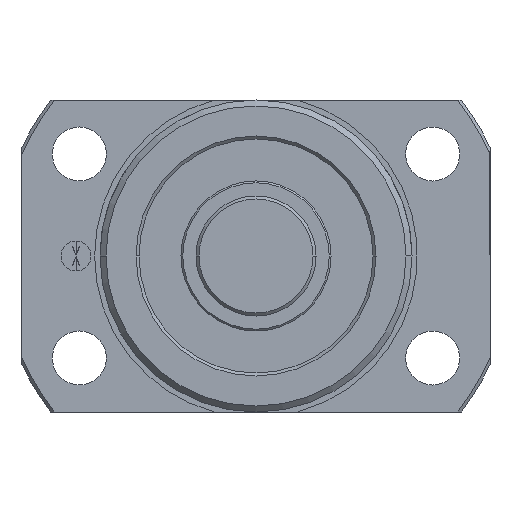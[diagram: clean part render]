
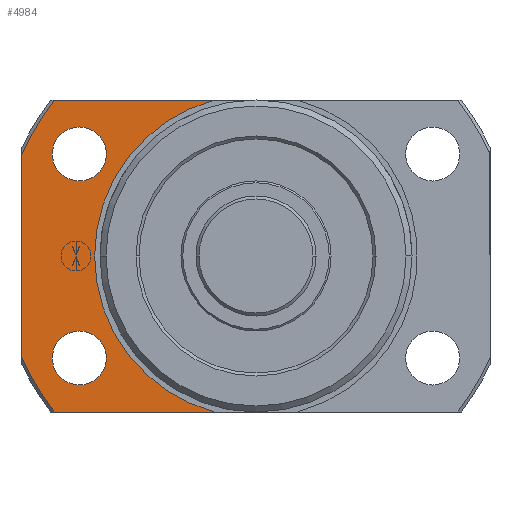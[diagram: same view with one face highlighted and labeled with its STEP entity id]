
A CAD part, left-side view. The second image highlights one B-rep face of the part: STEP entity #4984.
In plain terms, the highlighted planar face has unit normal (-1, 0, 0).
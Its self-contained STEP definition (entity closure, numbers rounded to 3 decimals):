
#4 = ORIENTED_EDGE ( 'NONE', *, *, #1739, .F. ) ;
#5 = ORIENTED_EDGE ( 'NONE', *, *, #5090, .F. ) ;
#6 = ORIENTED_EDGE ( 'NONE', *, *, #1738, .F. ) ;
#7 = ORIENTED_EDGE ( 'NONE', *, *, #5082, .F. ) ;
#8 = ORIENTED_EDGE ( 'NONE', *, *, #5110, .T. ) ;
#9 = ORIENTED_EDGE ( 'NONE', *, *, #1728, .T. ) ;
#10 = ORIENTED_EDGE ( 'NONE', *, *, #1737, .T. ) ;
#11 = ORIENTED_EDGE ( 'NONE', *, *, #1736, .F. ) ;
#12 = ORIENTED_EDGE ( 'NONE', *, *, #1735, .T. ) ;
#13 = ORIENTED_EDGE ( 'NONE', *, *, #1734, .F. ) ;
#14 = ORIENTED_EDGE ( 'NONE', *, *, #1733, .T. ) ;
#718 = VERTEX_POINT ( 'NONE', #2357 ) ;
#719 = VERTEX_POINT ( 'NONE', #2372 ) ;
#726 = VERTEX_POINT ( 'NONE', #2330 ) ;
#727 = VERTEX_POINT ( 'NONE', #2327 ) ;
#1571 = CARTESIAN_POINT ( 'NONE',  ( -15., 33.619, 26. ) ) ;
#1574 = CARTESIAN_POINT ( 'NONE',  ( -15., 6.9, 26. ) ) ;
#1577 = CARTESIAN_POINT ( 'NONE',  ( -15., 26.9, 0. ) ) ;
#1587 = CARTESIAN_POINT ( 'NONE',  ( -15., 33.619, -26. ) ) ;
#1632 = CARTESIAN_POINT ( 'NONE',  ( -15., 39., -16.889 ) ) ;
#1645 = CARTESIAN_POINT ( 'NONE',  ( -15., 6.9, -26. ) ) ;
#1728 = EDGE_CURVE ( 'NONE', #4488, #4642, #4563, .T. ) ;
#1733 = EDGE_CURVE ( 'NONE', #4645, #4491, #4571, .T. ) ;
#1734 = EDGE_CURVE ( 'NONE', #4473, #4491, #4573, .T. ) ;
#1735 = EDGE_CURVE ( 'NONE', #4473, #4503, #4570, .T. ) ;
#1736 = EDGE_CURVE ( 'NONE', #4487, #4503, #4576, .T. ) ;
#1737 = EDGE_CURVE ( 'NONE', #4487, #4488, #4575, .T. ) ;
#1738 = EDGE_CURVE ( 'NONE', #719, #718, #4579, .T. ) ;
#1739 = EDGE_CURVE ( 'NONE', #727, #726, #4578, .T. ) ;
#1988 = CARTESIAN_POINT ( 'NONE',  ( -15., 29.445, 17. ) ) ;
#1989 = DIRECTION ( 'NONE',  ( -1., 0., 0. ) ) ;
#1990 = DIRECTION ( 'NONE',  ( 0., -1., 0. ) ) ;
#2008 = CARTESIAN_POINT ( 'NONE',  ( -15., 29.445, -17. ) ) ;
#2009 = DIRECTION ( 'NONE',  ( -1., 0., 0. ) ) ;
#2010 = DIRECTION ( 'NONE',  ( 0., -1., 0. ) ) ;
#2057 = CARTESIAN_POINT ( 'NONE',  ( -15., 0., 0. ) ) ;
#2058 = DIRECTION ( 'NONE',  ( 1., 0., 0. ) ) ;
#2059 = DIRECTION ( 'NONE',  ( 0., 1., 0. ) ) ;
#2127 = AXIS2_PLACEMENT_3D ( 'NONE', #1988, #1989, #1990 ) ;
#2131 = AXIS2_PLACEMENT_3D ( 'NONE', #2008, #2009, #2010 ) ;
#2141 = AXIS2_PLACEMENT_3D ( 'NONE', #2057, #2058, #2059 ) ;
#2327 = CARTESIAN_POINT ( 'NONE',  ( -15., 29.445, -12.5 ) ) ;
#2330 = CARTESIAN_POINT ( 'NONE',  ( -15., 29.445, -21.5 ) ) ;
#2357 = CARTESIAN_POINT ( 'NONE',  ( -15., 29.445, 12.5 ) ) ;
#2372 = CARTESIAN_POINT ( 'NONE',  ( -15., 29.445, 21.5 ) ) ;
#2877 = DIRECTION ( 'NONE',  ( -1., 0., 0. ) ) ;
#2879 = CARTESIAN_POINT ( 'NONE',  ( -15., 26.9, 0. ) ) ;
#2881 = PLANE ( 'NONE',  #4282 ) ;
#2882 = DIRECTION ( 'NONE',  ( 0., -1., 0. ) ) ;
#3057 = DIRECTION ( 'NONE',  ( 0., 1., 0. ) ) ;
#3058 = DIRECTION ( 'NONE',  ( 1., 0., 0. ) ) ;
#3059 = CARTESIAN_POINT ( 'NONE',  ( -15., 0., 0. ) ) ;
#3102 = DIRECTION ( 'NONE',  ( 0., 1., 0. ) ) ;
#3107 = CARTESIAN_POINT ( 'NONE',  ( -15., 26.9, 26. ) ) ;
#3121 = DIRECTION ( 'NONE',  ( 0., -1., 0. ) ) ;
#3122 = DIRECTION ( 'NONE',  ( -1., 0., 0. ) ) ;
#3123 = CARTESIAN_POINT ( 'NONE',  ( -15., 29.445, -17. ) ) ;
#3125 = DIRECTION ( 'NONE',  ( 0., -1., 0. ) ) ;
#3126 = DIRECTION ( 'NONE',  ( -1., 0., 0. ) ) ;
#3127 = CARTESIAN_POINT ( 'NONE',  ( -15., 29.445, 17. ) ) ;
#3129 = DIRECTION ( 'NONE',  ( 0., 1., 0. ) ) ;
#3130 = DIRECTION ( 'NONE',  ( 1., 0., 0. ) ) ;
#3131 = CARTESIAN_POINT ( 'NONE',  ( -15., 0., 0. ) ) ;
#3132 = CARTESIAN_POINT ( 'NONE',  ( -15., 26.9, -26. ) ) ;
#3134 = DIRECTION ( 'NONE',  ( 0., 0., -1. ) ) ;
#3135 = DIRECTION ( 'NONE',  ( 0., 1., 0. ) ) ;
#3137 = CARTESIAN_POINT ( 'NONE',  ( -15., 39., 0. ) ) ;
#3138 = DIRECTION ( 'NONE',  ( 0., -1., 0. ) ) ;
#3139 = DIRECTION ( 'NONE',  ( 1., 0., 0. ) ) ;
#3140 = CARTESIAN_POINT ( 'NONE',  ( -15., 0., 0. ) ) ;
#3411 = CIRCLE ( 'NONE', #2127, 4.5 ) ;
#3423 = CIRCLE ( 'NONE', #2131, 4.5 ) ;
#3449 = CIRCLE ( 'NONE', #2141, 26.9 ) ;
#4062 = FACE_OUTER_BOUND ( 'NONE', #5575, .T. ) ;
#4063 = FACE_BOUND ( 'NONE', #5584, .T. ) ;
#4068 = FACE_BOUND ( 'NONE', #5573, .T. ) ;
#4123 = AXIS2_PLACEMENT_3D ( 'NONE', #3059, #3058, #3057 ) ;
#4125 = AXIS2_PLACEMENT_3D ( 'NONE', #3140, #3139, #3135 ) ;
#4126 = AXIS2_PLACEMENT_3D ( 'NONE', #3131, #3130, #3129 ) ;
#4127 = AXIS2_PLACEMENT_3D ( 'NONE', #3127, #3126, #3125 ) ;
#4128 = AXIS2_PLACEMENT_3D ( 'NONE', #3123, #3122, #3121 ) ;
#4282 = AXIS2_PLACEMENT_3D ( 'NONE', #2879, #2877, #2882 ) ;
#4473 = VERTEX_POINT ( 'NONE', #4883 ) ;
#4487 = VERTEX_POINT ( 'NONE', #1587 ) ;
#4488 = VERTEX_POINT ( 'NONE', #1645 ) ;
#4491 = VERTEX_POINT ( 'NONE', #1571 ) ;
#4503 = VERTEX_POINT ( 'NONE', #1632 ) ;
#4563 = CIRCLE ( 'NONE', #4123, 26.9 ) ;
#4570 = LINE ( 'NONE', #3137, #4577 ) ;
#4571 = LINE ( 'NONE', #3107, #4574 ) ;
#4573 = CIRCLE ( 'NONE', #4125, 42.5 ) ;
#4574 = VECTOR ( 'NONE', #3102, 1000. ) ;
#4575 = LINE ( 'NONE', #3132, #4580 ) ;
#4576 = CIRCLE ( 'NONE', #4126, 42.5 ) ;
#4577 = VECTOR ( 'NONE', #3134, 1000. ) ;
#4578 = CIRCLE ( 'NONE', #4128, 4.5 ) ;
#4579 = CIRCLE ( 'NONE', #4127, 4.5 ) ;
#4580 = VECTOR ( 'NONE', #3138, 1000. ) ;
#4642 = VERTEX_POINT ( 'NONE', #1577 ) ;
#4645 = VERTEX_POINT ( 'NONE', #1574 ) ;
#4883 = CARTESIAN_POINT ( 'NONE',  ( -15., 39., 16.889 ) ) ;
#4984 = ADVANCED_FACE ( 'NONE', ( #4062, #4068, #4063 ), #2881, .T. ) ;
#5082 = EDGE_CURVE ( 'NONE', #718, #719, #3411, .T. ) ;
#5090 = EDGE_CURVE ( 'NONE', #726, #727, #3423, .T. ) ;
#5110 = EDGE_CURVE ( 'NONE', #4642, #4645, #3449, .T. ) ;
#5573 = EDGE_LOOP ( 'NONE', ( #7, #6 ) ) ;
#5575 = EDGE_LOOP ( 'NONE', ( #14, #13, #12, #11, #10, #9, #8 ) ) ;
#5584 = EDGE_LOOP ( 'NONE', ( #5, #4 ) ) ;
